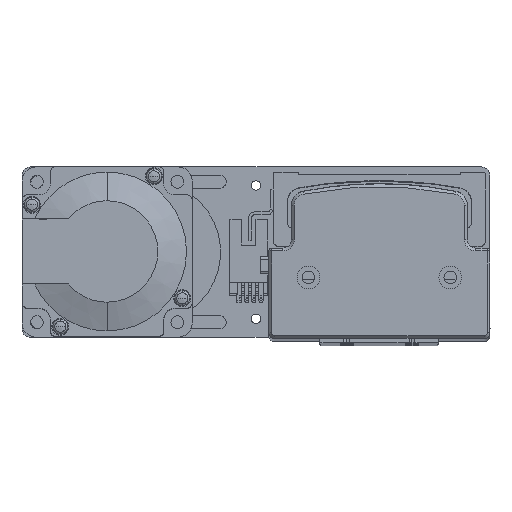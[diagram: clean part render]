
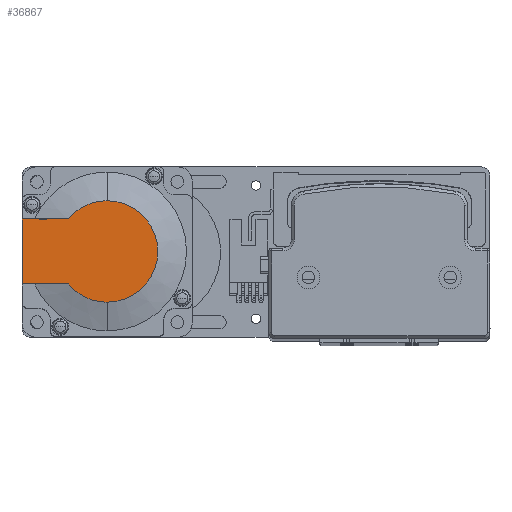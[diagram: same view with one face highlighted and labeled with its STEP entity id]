
A CAD part, top view. The second image highlights one B-rep face of the part: STEP entity #36867.
In plain terms, the highlighted planar face has unit normal (0, 0, 1) as drawn and (-1, 0, 0) by its records, which use the part's own axes.
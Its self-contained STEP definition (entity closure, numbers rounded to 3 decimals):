
#347 = EDGE_LOOP ( 'NONE', ( #23713, #47714, #30848, #2478, #23812, #45302 ) ) ;
#1468 = CARTESIAN_POINT ( 'NONE',  ( -118.5, 30., -11.45 ) ) ;
#2478 = ORIENTED_EDGE ( 'NONE', *, *, #10768, .T. ) ;
#3661 = EDGE_CURVE ( 'NONE', #24938, #7782, #20068, .T. ) ;
#3682 = DIRECTION ( 'NONE',  ( 0., -1., 0. ) ) ;
#5798 = VERTEX_POINT ( 'NONE', #6918 ) ;
#6065 = VERTEX_POINT ( 'NONE', #1468 ) ;
#6130 = VECTOR ( 'NONE', #3682, 1000. ) ;
#6702 = EDGE_CURVE ( 'NONE', #6065, #5798, #29068, .T. ) ;
#6918 = CARTESIAN_POINT ( 'NONE',  ( -118.5, 30., 11.45 ) ) ;
#7782 = VERTEX_POINT ( 'NONE', #39717 ) ;
#8204 = DIRECTION ( 'NONE',  ( -1., 0., 0. ) ) ;
#8539 = CARTESIAN_POINT ( 'NONE',  ( -118.5, 30., 25. ) ) ;
#9277 = CARTESIAN_POINT ( 'NONE',  ( -118.5, 0., 0. ) ) ;
#9503 = CIRCLE ( 'NONE', #15697, 17.881 ) ;
#10711 = AXIS2_PLACEMENT_3D ( 'NONE', #30899, #8204, #34725 ) ;
#10768 = EDGE_CURVE ( 'NONE', #7782, #47629, #36055, .T. ) ;
#11785 = CARTESIAN_POINT ( 'NONE',  ( -118.5, 0., 0. ) ) ;
#12641 = VECTOR ( 'NONE', #25006, 1000. ) ;
#12673 = EDGE_CURVE ( 'NONE', #5798, #47629, #31593, .T. ) ;
#13071 = DIRECTION ( 'NONE',  ( 0., 0., -1. ) ) ;
#13146 = VERTEX_POINT ( 'NONE', #13620 ) ;
#13620 = CARTESIAN_POINT ( 'NONE',  ( -118.5, 13.735, -11.45 ) ) ;
#15600 = DIRECTION ( 'NONE',  ( 0., 0., -1. ) ) ;
#15697 = AXIS2_PLACEMENT_3D ( 'NONE', #17746, #44263, #21546 ) ;
#16183 = LINE ( 'NONE', #45452, #6130 ) ;
#17235 = FACE_OUTER_BOUND ( 'NONE', #347, .T. ) ;
#17746 = CARTESIAN_POINT ( 'NONE',  ( -118.5, 0., 0. ) ) ;
#18317 = EDGE_CURVE ( 'NONE', #6065, #13146, #16183, .T. ) ;
#20068 = CIRCLE ( 'NONE', #39326, 17.881 ) ;
#21546 = DIRECTION ( 'NONE',  ( 0., 0., -1. ) ) ;
#23713 = ORIENTED_EDGE ( 'NONE', *, *, #18317, .T. ) ;
#23812 = ORIENTED_EDGE ( 'NONE', *, *, #12673, .F. ) ;
#23827 = CARTESIAN_POINT ( 'NONE',  ( -118.5, 0., -17.881 ) ) ;
#24938 = VERTEX_POINT ( 'NONE', #23827 ) ;
#25006 = DIRECTION ( 'NONE',  ( 0., -1., 0. ) ) ;
#25058 = EDGE_CURVE ( 'NONE', #13146, #24938, #9503, .T. ) ;
#25635 = CARTESIAN_POINT ( 'NONE',  ( -118.5, 13.735, 11.45 ) ) ;
#29068 = LINE ( 'NONE', #8539, #32663 ) ;
#30848 = ORIENTED_EDGE ( 'NONE', *, *, #3661, .T. ) ;
#30899 = CARTESIAN_POINT ( 'NONE',  ( -118.5, -8.941, 0. ) ) ;
#31593 = LINE ( 'NONE', #36347, #12641 ) ;
#32663 = VECTOR ( 'NONE', #35042, 1000. ) ;
#34561 = PLANE ( 'NONE',  #10711 ) ;
#34725 = DIRECTION ( 'NONE',  ( 0., 0., 1. ) ) ;
#35042 = DIRECTION ( 'NONE',  ( 0., 0., 1. ) ) ;
#35804 = DIRECTION ( 'NONE',  ( -1., 0., 0. ) ) ;
#36055 = CIRCLE ( 'NONE', #47502, 17.881 ) ;
#36347 = CARTESIAN_POINT ( 'NONE',  ( -118.5, 0., 11.45 ) ) ;
#36867 = ADVANCED_FACE ( 'NONE', ( #17235 ), #34561, .T. ) ;
#38322 = DIRECTION ( 'NONE',  ( -1., 0., 0. ) ) ;
#39326 = AXIS2_PLACEMENT_3D ( 'NONE', #9277, #35804, #13071 ) ;
#39717 = CARTESIAN_POINT ( 'NONE',  ( -118.5, 0., 17.881 ) ) ;
#44263 = DIRECTION ( 'NONE',  ( -1., 0., 0. ) ) ;
#45302 = ORIENTED_EDGE ( 'NONE', *, *, #6702, .F. ) ;
#45452 = CARTESIAN_POINT ( 'NONE',  ( -118.5, -8.941, -11.45 ) ) ;
#47502 = AXIS2_PLACEMENT_3D ( 'NONE', #11785, #38322, #15600 ) ;
#47629 = VERTEX_POINT ( 'NONE', #25635 ) ;
#47714 = ORIENTED_EDGE ( 'NONE', *, *, #25058, .T. ) ;
